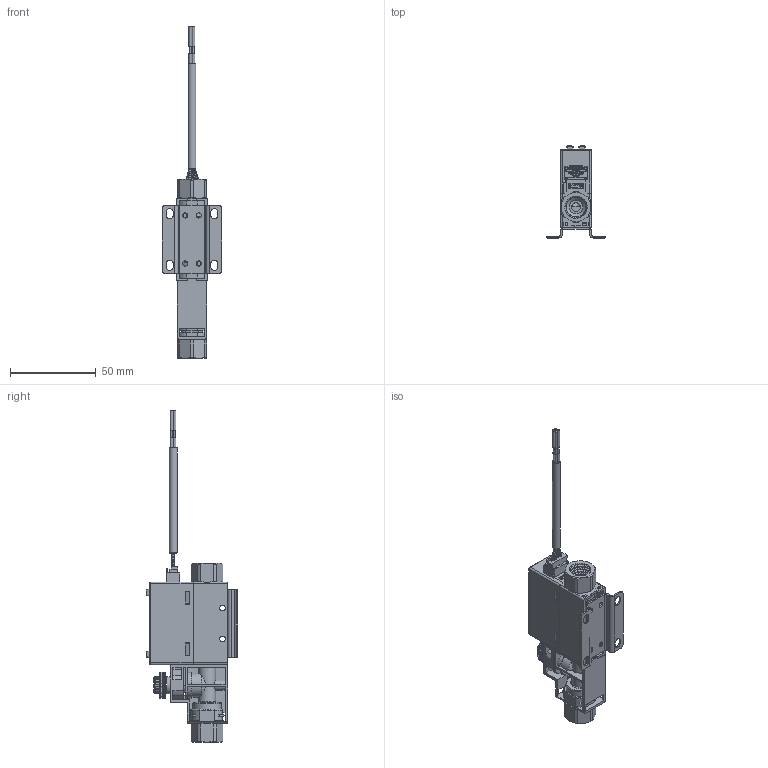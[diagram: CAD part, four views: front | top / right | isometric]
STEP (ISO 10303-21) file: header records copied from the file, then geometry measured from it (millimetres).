
FILE_DESCRIPTION( (''), '2;1');
FILE_NAME( 'QGKK_200L_G1-4_silent_needle-valve.step', '2025-01-02T16:12:03+08:00', (''), (''), '', '', '');
FILE_SCHEMA (('AUTOMOTIVE_DESIGN { 1 0 10303 214 3 1 1 1 }'));
Products named in the file (1): QGKK 200L_G1-4_silent_needle-valve
Bounding box: 34.6 x 53.5 x 193.3 mm (x, y, z)
Volume: 31950.6 mm3; surface area: 43388 mm2
Topology: 14 solids, 16 shells, 1815 faces, 4955 edges, 3265 vertices
Faces by surface type: plane 1110, cylinder 427, torus 108, cone 88, extrusion 61, bspline 18, sphere 3
Full cylindrical faces by diameter (mm): 0.8 x2, 1 x9, 1.5 x8, 1.6 x4, 1.8 x2, 2 x3, 2.2 x2, 2.5 x2, 2.6 x2, 3 x4, 3.3 x4, 4.5 x1, 5 x1, 5.1 x2, 6 x2, 8 x4, 9 x2, 9.1 x1, 9.2 x1, 9.5 x2, 10 x2, 10.1 x1, 10.5 x3, 10.8 x1, 11 x2, 11.1 x1, 12 x8, 12.1 x1, 12.5 x3, 13.9 x2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
Entity records: 63650 total; most frequent: CARTESIAN_POINT 18275, ORIENTED_EDGE 9522, DIRECTION 8895, EDGE_CURVE 4761, VERTEX_POINT 3223, VECTOR 3077, LINE 3016, AXIS2_PLACEMENT_3D 2909
